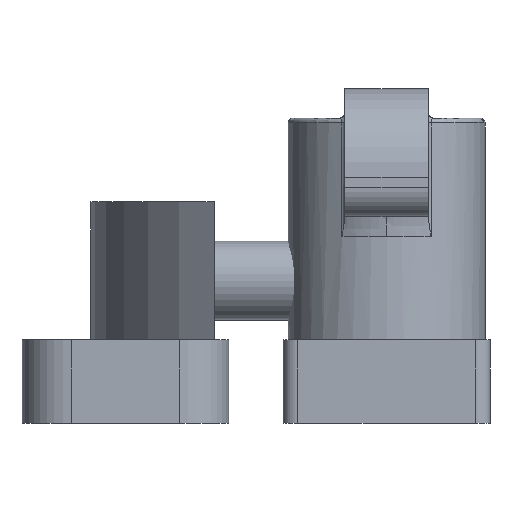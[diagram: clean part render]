
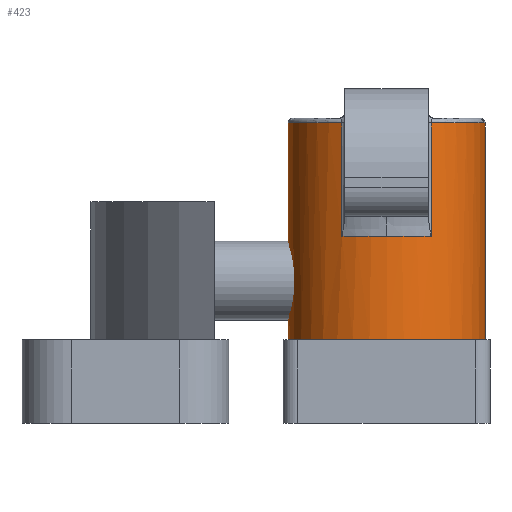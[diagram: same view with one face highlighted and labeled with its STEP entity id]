
A CAD part, front view. The second image highlights one B-rep face of the part: STEP entity #423.
In plain terms, the highlighted cylindrical face has radius 10 mm (diameter 20 mm), a partial arc.
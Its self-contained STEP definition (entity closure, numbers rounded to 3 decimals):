
#55 = DIRECTION ( 'NONE',  ( 0., 0., 1. ) ) ;
#152 = CIRCLE ( 'NONE', #535, 10. ) ;
#170 = CARTESIAN_POINT ( 'NONE',  ( 32.476, 18.582, 30.5 ) ) ;
#219 = EDGE_CURVE ( 'NONE', #2728, #1730, #2605, .T. ) ;
#271 = ORIENTED_EDGE ( 'NONE', *, *, #890, .T. ) ;
#314 = VERTEX_POINT ( 'NONE', #660 ) ;
#316 = DIRECTION ( 'NONE',  ( -1., 0., 0. ) ) ;
#330 = VECTOR ( 'NONE', #409, 1000. ) ;
#392 = CARTESIAN_POINT ( 'NONE',  ( 37., 27.5, 8.5 ) ) ;
#409 = DIRECTION ( 'NONE',  ( 0., 0., -1. ) ) ;
#423 = ADVANCED_FACE ( 'NONE', ( #1230 ), #781, .T. ) ;
#426 = AXIS2_PLACEMENT_3D ( 'NONE', #943, #1632, #1851 ) ;
#513 = EDGE_CURVE ( 'NONE', #1622, #2941, #1427, .T. ) ;
#515 = EDGE_CURVE ( 'NONE', #314, #1806, #2867, .T. ) ;
#535 = AXIS2_PLACEMENT_3D ( 'NONE', #1805, #1582, #650 ) ;
#570 = EDGE_CURVE ( 'NONE', #1730, #314, #1527, .T. ) ;
#583 = VECTOR ( 'NONE', #55, 1000. ) ;
#617 = DIRECTION ( 'NONE',  ( 0., 0., 1. ) ) ;
#634 = AXIS2_PLACEMENT_3D ( 'NONE', #2738, #694, #677 ) ;
#646 = DIRECTION ( 'NONE',  ( 0., 0., -1. ) ) ;
#650 = DIRECTION ( 'NONE',  ( 0., -1., 0. ) ) ;
#660 = CARTESIAN_POINT ( 'NONE',  ( 27., 27.5, 8.5 ) ) ;
#677 = DIRECTION ( 'NONE',  ( 1., 0., 0. ) ) ;
#694 = DIRECTION ( 'NONE',  ( 0., 0., -1. ) ) ;
#712 = AXIS2_PLACEMENT_3D ( 'NONE', #2008, #646, #2674 ) ;
#781 = CYLINDRICAL_SURFACE ( 'NONE', #1691, 10. ) ;
#834 = ORIENTED_EDGE ( 'NONE', *, *, #1756, .F. ) ;
#836 = DIRECTION ( 'NONE',  ( 0., 0., -1. ) ) ;
#852 = ORIENTED_EDGE ( 'NONE', *, *, #515, .T. ) ;
#890 = EDGE_CURVE ( 'NONE', #2941, #2624, #1524, .T. ) ;
#943 = CARTESIAN_POINT ( 'NONE',  ( 37., 27.5, 19. ) ) ;
#995 = ORIENTED_EDGE ( 'NONE', *, *, #513, .T. ) ;
#1116 = CARTESIAN_POINT ( 'NONE',  ( 47., 27.5, 31. ) ) ;
#1143 = DIRECTION ( 'NONE',  ( 0., 0., -1. ) ) ;
#1188 = VECTOR ( 'NONE', #1143, 1000. ) ;
#1218 = VECTOR ( 'NONE', #836, 1000. ) ;
#1230 = FACE_OUTER_BOUND ( 'NONE', #1559, .T. ) ;
#1293 = CARTESIAN_POINT ( 'NONE',  ( 47., 27.5, 30.5 ) ) ;
#1427 = CIRCLE ( 'NONE', #712, 10. ) ;
#1449 = EDGE_CURVE ( 'NONE', #1986, #2345, #1716, .T. ) ;
#1514 = CARTESIAN_POINT ( 'NONE',  ( 27., 27.5, 30.5 ) ) ;
#1524 = LINE ( 'NONE', #2924, #1218 ) ;
#1527 = LINE ( 'NONE', #2533, #1188 ) ;
#1558 = LINE ( 'NONE', #1116, #330 ) ;
#1559 = EDGE_LOOP ( 'NONE', ( #834, #995, #271, #1637, #2705, #2418, #2069, #2277, #852 ) ) ;
#1582 = DIRECTION ( 'NONE',  ( 0., 0., -1. ) ) ;
#1622 = VERTEX_POINT ( 'NONE', #1293 ) ;
#1632 = DIRECTION ( 'NONE',  ( 0., 0., -1. ) ) ;
#1637 = ORIENTED_EDGE ( 'NONE', *, *, #2603, .T. ) ;
#1656 = DIRECTION ( 'NONE',  ( 0., 0., -1. ) ) ;
#1663 = LINE ( 'NONE', #2113, #583 ) ;
#1691 = AXIS2_PLACEMENT_3D ( 'NONE', #1935, #1656, #316 ) ;
#1716 = CIRCLE ( 'NONE', #426, 10. ) ;
#1730 = VERTEX_POINT ( 'NONE', #1514 ) ;
#1734 = CARTESIAN_POINT ( 'NONE',  ( 32.476, 18.582, 19. ) ) ;
#1756 = EDGE_CURVE ( 'NONE', #1622, #1806, #1558, .T. ) ;
#1805 = CARTESIAN_POINT ( 'NONE',  ( 37., 27.5, 19. ) ) ;
#1806 = VERTEX_POINT ( 'NONE', #2913 ) ;
#1838 = CARTESIAN_POINT ( 'NONE',  ( 41.524, 18.582, 30.5 ) ) ;
#1851 = DIRECTION ( 'NONE',  ( 0., -1., 0. ) ) ;
#1935 = CARTESIAN_POINT ( 'NONE',  ( 37., 27.5, 31. ) ) ;
#1986 = VERTEX_POINT ( 'NONE', #2478 ) ;
#2008 = CARTESIAN_POINT ( 'NONE',  ( 37., 27.5, 30.5 ) ) ;
#2069 = ORIENTED_EDGE ( 'NONE', *, *, #219, .T. ) ;
#2107 = CARTESIAN_POINT ( 'NONE',  ( 41.524, 18.582, 19. ) ) ;
#2113 = CARTESIAN_POINT ( 'NONE',  ( 32.476, 18.582, 31. ) ) ;
#2277 = ORIENTED_EDGE ( 'NONE', *, *, #570, .T. ) ;
#2328 = EDGE_CURVE ( 'NONE', #2345, #2728, #1663, .T. ) ;
#2345 = VERTEX_POINT ( 'NONE', #1734 ) ;
#2418 = ORIENTED_EDGE ( 'NONE', *, *, #2328, .T. ) ;
#2478 = CARTESIAN_POINT ( 'NONE',  ( 37., 17.5, 19. ) ) ;
#2533 = CARTESIAN_POINT ( 'NONE',  ( 27., 27.5, 31. ) ) ;
#2603 = EDGE_CURVE ( 'NONE', #2624, #1986, #152, .T. ) ;
#2605 = CIRCLE ( 'NONE', #634, 10. ) ;
#2624 = VERTEX_POINT ( 'NONE', #2107 ) ;
#2674 = DIRECTION ( 'NONE',  ( 1., 0., 0. ) ) ;
#2705 = ORIENTED_EDGE ( 'NONE', *, *, #1449, .T. ) ;
#2728 = VERTEX_POINT ( 'NONE', #170 ) ;
#2738 = CARTESIAN_POINT ( 'NONE',  ( 37., 27.5, 30.5 ) ) ;
#2867 = CIRCLE ( 'NONE', #2911, 10. ) ;
#2911 = AXIS2_PLACEMENT_3D ( 'NONE', #392, #617, #2928 ) ;
#2913 = CARTESIAN_POINT ( 'NONE',  ( 47., 27.5, 8.5 ) ) ;
#2924 = CARTESIAN_POINT ( 'NONE',  ( 41.524, 18.582, 31. ) ) ;
#2928 = DIRECTION ( 'NONE',  ( -1., 0., 0. ) ) ;
#2941 = VERTEX_POINT ( 'NONE', #1838 ) ;
